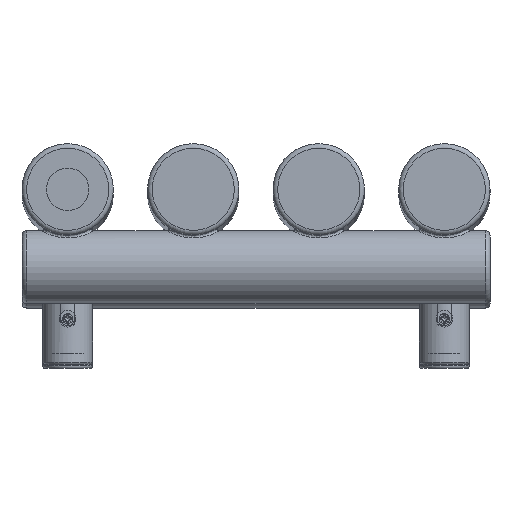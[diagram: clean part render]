
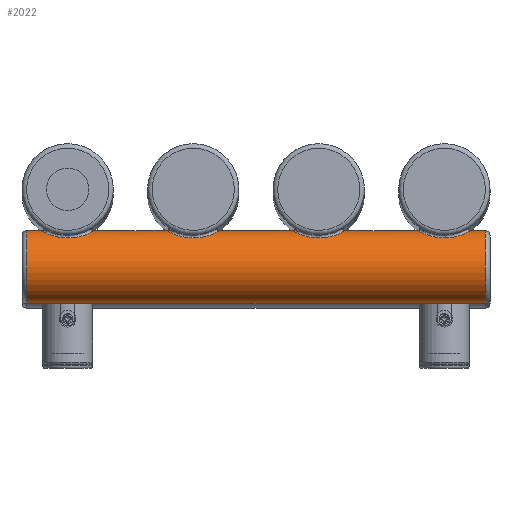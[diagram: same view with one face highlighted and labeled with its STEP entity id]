
A CAD part, top view. The second image highlights one B-rep face of the part: STEP entity #2022.
In plain terms, the highlighted cylindrical face has radius 16 mm (diameter 32 mm), a full revolution.
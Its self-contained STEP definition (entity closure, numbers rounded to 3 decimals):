
#171=FACE_BOUND('',#525,.T.);
#172=FACE_BOUND('',#526,.T.);
#173=FACE_BOUND('',#527,.T.);
#174=FACE_BOUND('',#528,.T.);
#195=LINE('',#4300,#269);
#269=VECTOR('',#2540,16.);
#343=CYLINDRICAL_SURFACE('',#2213,16.);
#379=FACE_OUTER_BOUND('',#524,.T.);
#524=EDGE_LOOP('',(#1448,#1449,#1450,#1451));
#525=EDGE_LOOP('',(#1452));
#526=EDGE_LOOP('',(#1453));
#527=EDGE_LOOP('',(#1454));
#528=EDGE_LOOP('',(#1455));
#678=B_SPLINE_CURVE_WITH_KNOTS('',3,(#4276,#4277,#4278,#4279,#4280,#4281,
#4282,#4283,#4284,#4285,#4286,#4287,#4288,#4289,#4290,#4291,#4292,#4293,
#4294,#4295),.UNSPECIFIED.,.T.,.F.,(4,1,1,1,1,1,1,1,1,1,1,1,1,1,1,1,1,4),
(0.,0.367,0.733,1.1,1.466,
1.711,1.955,2.199,2.444,2.933,
3.177,3.421,3.666,3.788,3.91,
4.399,4.765,5.132),.UNSPECIFIED.);
#679=B_SPLINE_CURVE_WITH_KNOTS('',3,(#4303,#4304,#4305,#4306,#4307,#4308,
#4309,#4310,#4311,#4312,#4313,#4314,#4315,#4316,#4317,#4318,#4319,#4320,
#4321),.UNSPECIFIED.,.T.,.F.,(4,1,1,1,1,1,1,1,1,1,1,1,1,1,1,1,4),(0.,0.367,
0.733,1.1,1.466,1.711,1.955,
2.199,2.444,2.933,3.177,3.421,
3.666,3.91,4.399,4.765,5.132),
 .UNSPECIFIED.);
#680=B_SPLINE_CURVE_WITH_KNOTS('',3,(#4323,#4324,#4325,#4326,#4327,#4328,
#4329,#4330,#4331,#4332,#4333,#4334,#4335,#4336,#4337,#4338,#4339,#4340,
#4341,#4342,#4343),.UNSPECIFIED.,.T.,.F.,(4,1,1,1,1,1,1,1,1,1,1,1,1,1,1,
1,1,1,4),(0.,0.367,0.733,0.916,1.1,
1.466,1.711,1.955,2.199,2.444,
2.688,2.933,3.177,3.421,3.666,
3.91,4.399,4.765,5.132),
 .UNSPECIFIED.);
#681=B_SPLINE_CURVE_WITH_KNOTS('',3,(#4345,#4346,#4347,#4348,#4349,#4350,
#4351,#4352,#4353,#4354,#4355,#4356,#4357,#4358,#4359,#4360,#4361,#4362,
#4363,#4364,#4365),.UNSPECIFIED.,.T.,.F.,(4,1,1,1,1,1,1,1,1,1,1,1,1,1,1,
1,1,1,4),(0.,0.367,0.733,0.916,1.1,
1.466,1.711,1.955,2.199,2.444,
2.688,2.933,3.177,3.421,3.666,
3.91,4.399,4.765,5.132),
 .UNSPECIFIED.);
#734=CIRCLE('',#2214,16.);
#735=CIRCLE('',#2215,16.);
#900=VERTEX_POINT('',#4274);
#901=VERTEX_POINT('',#4297);
#902=VERTEX_POINT('',#4299);
#903=VERTEX_POINT('',#4302);
#904=VERTEX_POINT('',#4322);
#905=VERTEX_POINT('',#4344);
#1120=EDGE_CURVE('',#900,#900,#678,.T.);
#1121=EDGE_CURVE('',#901,#901,#734,.T.);
#1122=EDGE_CURVE('',#901,#902,#195,.T.);
#1123=EDGE_CURVE('',#902,#902,#735,.T.);
#1124=EDGE_CURVE('',#903,#903,#679,.T.);
#1125=EDGE_CURVE('',#904,#904,#680,.T.);
#1126=EDGE_CURVE('',#905,#905,#681,.T.);
#1448=ORIENTED_EDGE('',*,*,#1121,.F.);
#1449=ORIENTED_EDGE('',*,*,#1122,.T.);
#1450=ORIENTED_EDGE('',*,*,#1123,.F.);
#1451=ORIENTED_EDGE('',*,*,#1122,.F.);
#1452=ORIENTED_EDGE('',*,*,#1124,.F.);
#1453=ORIENTED_EDGE('',*,*,#1125,.F.);
#1454=ORIENTED_EDGE('',*,*,#1126,.F.);
#1455=ORIENTED_EDGE('',*,*,#1120,.F.);
#2022=ADVANCED_FACE('',(#379,#171,#172,#173,#174),#343,.T.);
#2213=AXIS2_PLACEMENT_3D('',#4296,#2536,#2537);
#2214=AXIS2_PLACEMENT_3D('',#4298,#2538,#2539);
#2215=AXIS2_PLACEMENT_3D('',#4301,#2541,#2542);
#2536=DIRECTION('center_axis',(-1.,0.,0.));
#2537=DIRECTION('ref_axis',(0.,0.,1.));
#2538=DIRECTION('center_axis',(-1.,0.,0.));
#2539=DIRECTION('ref_axis',(0.,0.,1.));
#2540=DIRECTION('',(1.,0.,0.));
#2541=DIRECTION('center_axis',(1.,0.,0.));
#2542=DIRECTION('ref_axis',(0.,0.,1.));
#4274=CARTESIAN_POINT('',(-165.,-21.257,1169.676));
#4276=CARTESIAN_POINT('Ctrl Pts',(-165.,-21.257,1169.676));
#4277=CARTESIAN_POINT('Ctrl Pts',(-163.333,-21.257,1169.676));
#4278=CARTESIAN_POINT('Ctrl Pts',(-159.996,-20.861,1169.184));
#4279=CARTESIAN_POINT('Ctrl Pts',(-155.827,-19.326,1166.733));
#4280=CARTESIAN_POINT('Ctrl Pts',(-153.534,-17.944,1162.49));
#4281=CARTESIAN_POINT('Ctrl Pts',(-153.54,-17.945,1158.066));
#4282=CARTESIAN_POINT('Ctrl Pts',(-155.013,-18.83,1154.662));
#4283=CARTESIAN_POINT('Ctrl Pts',(-157.203,-19.859,1152.416));
#4284=CARTESIAN_POINT('Ctrl Pts',(-160.073,-20.764,1150.975));
#4285=CARTESIAN_POINT('Ctrl Pts',(-164.399,-21.457,1150.075));
#4286=CARTESIAN_POINT('Ctrl Pts',(-168.971,-21.078,1150.503));
#4287=CARTESIAN_POINT('Ctrl Pts',(-172.8,-19.857,1152.414));
#4288=CARTESIAN_POINT('Ctrl Pts',(-174.986,-18.832,1154.665));
#4289=CARTESIAN_POINT('Ctrl Pts',(-176.042,-18.2,1157.097));
#4290=CARTESIAN_POINT('Ctrl Pts',(-176.377,-17.994,1159.199));
#4291=CARTESIAN_POINT('Ctrl Pts',(-176.387,-17.977,1162.416));
#4292=CARTESIAN_POINT('Ctrl Pts',(-174.642,-19.138,1166.466));
#4293=CARTESIAN_POINT('Ctrl Pts',(-170.,-20.87,1169.18));
#4294=CARTESIAN_POINT('Ctrl Pts',(-166.667,-21.257,1169.676));
#4295=CARTESIAN_POINT('Ctrl Pts',(-165.,-21.257,1169.676));
#4296=CARTESIAN_POINT('Origin',(20.,-34.,1160.));
#4297=CARTESIAN_POINT('',(-183.,-34.,1144.));
#4298=CARTESIAN_POINT('Origin',(-183.,-34.,1160.));
#4299=CARTESIAN_POINT('',(18.,-34.,1144.));
#4300=CARTESIAN_POINT('',(20.,-34.,1144.));
#4301=CARTESIAN_POINT('Origin',(18.,-34.,1160.));
#4302=CARTESIAN_POINT('',(-110.,-21.257,1169.676));
#4303=CARTESIAN_POINT('Ctrl Pts',(-110.,-21.257,1169.676));
#4304=CARTESIAN_POINT('Ctrl Pts',(-108.333,-21.257,1169.676));
#4305=CARTESIAN_POINT('Ctrl Pts',(-104.996,-20.861,1169.183));
#4306=CARTESIAN_POINT('Ctrl Pts',(-100.824,-19.321,1166.735));
#4307=CARTESIAN_POINT('Ctrl Pts',(-98.535,-17.944,1162.489));
#4308=CARTESIAN_POINT('Ctrl Pts',(-98.541,-17.949,1158.065));
#4309=CARTESIAN_POINT('Ctrl Pts',(-100.014,-18.832,1154.661));
#4310=CARTESIAN_POINT('Ctrl Pts',(-102.203,-19.862,1152.415));
#4311=CARTESIAN_POINT('Ctrl Pts',(-105.073,-20.765,1150.975));
#4312=CARTESIAN_POINT('Ctrl Pts',(-109.399,-21.459,1150.075));
#4313=CARTESIAN_POINT('Ctrl Pts',(-113.971,-21.078,1150.504));
#4314=CARTESIAN_POINT('Ctrl Pts',(-117.798,-19.859,1152.414));
#4315=CARTESIAN_POINT('Ctrl Pts',(-119.989,-18.831,1154.665));
#4316=CARTESIAN_POINT('Ctrl Pts',(-121.247,-18.084,1157.578));
#4317=CARTESIAN_POINT('Ctrl Pts',(-121.602,-17.836,1161.907));
#4318=CARTESIAN_POINT('Ctrl Pts',(-119.645,-19.134,1166.468));
#4319=CARTESIAN_POINT('Ctrl Pts',(-114.999,-20.872,1169.179));
#4320=CARTESIAN_POINT('Ctrl Pts',(-111.667,-21.257,1169.676));
#4321=CARTESIAN_POINT('Ctrl Pts',(-110.,-21.257,1169.676));
#4322=CARTESIAN_POINT('',(0.,-21.257,1169.676));
#4323=CARTESIAN_POINT('Ctrl Pts',(0.,-21.257,
1169.676));
#4324=CARTESIAN_POINT('Ctrl Pts',(1.667,-21.257,1169.676));
#4325=CARTESIAN_POINT('Ctrl Pts',(5.008,-20.858,1169.186));
#4326=CARTESIAN_POINT('Ctrl Pts',(8.474,-19.582,1167.138));
#4327=CARTESIAN_POINT('Ctrl Pts',(10.325,-18.63,1164.615));
#4328=CARTESIAN_POINT('Ctrl Pts',(11.461,-17.949,1161.659));
#4329=CARTESIAN_POINT('Ctrl Pts',(11.462,-17.947,1158.066));
#4330=CARTESIAN_POINT('Ctrl Pts',(9.987,-18.833,1154.662));
#4331=CARTESIAN_POINT('Ctrl Pts',(7.797,-19.86,1152.415));
#4332=CARTESIAN_POINT('Ctrl Pts',(4.928,-20.768,1150.978));
#4333=CARTESIAN_POINT('Ctrl Pts',(1.682,-21.278,1150.296));
#4334=CARTESIAN_POINT('Ctrl Pts',(-1.682,-21.279,1150.296));
#4335=CARTESIAN_POINT('Ctrl Pts',(-4.929,-20.768,1150.978));
#4336=CARTESIAN_POINT('Ctrl Pts',(-7.797,-19.862,1152.415));
#4337=CARTESIAN_POINT('Ctrl Pts',(-9.989,-18.829,1154.664));
#4338=CARTESIAN_POINT('Ctrl Pts',(-11.247,-18.084,1157.578));
#4339=CARTESIAN_POINT('Ctrl Pts',(-11.602,-17.835,1161.907));
#4340=CARTESIAN_POINT('Ctrl Pts',(-9.645,-19.134,1166.468));
#4341=CARTESIAN_POINT('Ctrl Pts',(-4.999,-20.872,1169.179));
#4342=CARTESIAN_POINT('Ctrl Pts',(-1.667,-21.257,1169.676));
#4343=CARTESIAN_POINT('Ctrl Pts',(0.,-21.257,
1169.676));
#4344=CARTESIAN_POINT('',(-55.,-21.257,1169.676));
#4345=CARTESIAN_POINT('Ctrl Pts',(-55.,-21.257,1169.676));
#4346=CARTESIAN_POINT('Ctrl Pts',(-53.333,-21.257,1169.676));
#4347=CARTESIAN_POINT('Ctrl Pts',(-49.992,-20.858,1169.186));
#4348=CARTESIAN_POINT('Ctrl Pts',(-46.526,-19.582,1167.138));
#4349=CARTESIAN_POINT('Ctrl Pts',(-44.675,-18.63,1164.615));
#4350=CARTESIAN_POINT('Ctrl Pts',(-43.539,-17.949,1161.659));
#4351=CARTESIAN_POINT('Ctrl Pts',(-43.538,-17.947,1158.067));
#4352=CARTESIAN_POINT('Ctrl Pts',(-45.013,-18.833,1154.662));
#4353=CARTESIAN_POINT('Ctrl Pts',(-47.203,-19.86,1152.415));
#4354=CARTESIAN_POINT('Ctrl Pts',(-50.072,-20.768,1150.978));
#4355=CARTESIAN_POINT('Ctrl Pts',(-53.318,-21.278,1150.296));
#4356=CARTESIAN_POINT('Ctrl Pts',(-56.682,-21.279,1150.296));
#4357=CARTESIAN_POINT('Ctrl Pts',(-59.929,-20.768,1150.978));
#4358=CARTESIAN_POINT('Ctrl Pts',(-62.797,-19.862,1152.416));
#4359=CARTESIAN_POINT('Ctrl Pts',(-64.989,-18.829,1154.664));
#4360=CARTESIAN_POINT('Ctrl Pts',(-66.247,-18.084,1157.578));
#4361=CARTESIAN_POINT('Ctrl Pts',(-66.602,-17.835,1161.907));
#4362=CARTESIAN_POINT('Ctrl Pts',(-64.645,-19.134,1166.468));
#4363=CARTESIAN_POINT('Ctrl Pts',(-59.999,-20.872,1169.179));
#4364=CARTESIAN_POINT('Ctrl Pts',(-56.667,-21.257,1169.676));
#4365=CARTESIAN_POINT('Ctrl Pts',(-55.,-21.257,1169.676));
